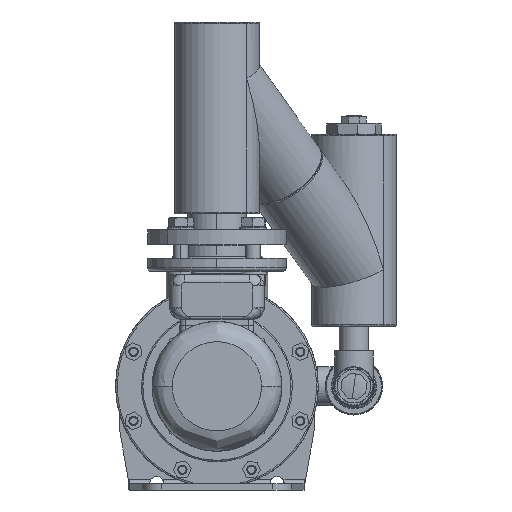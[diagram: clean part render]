
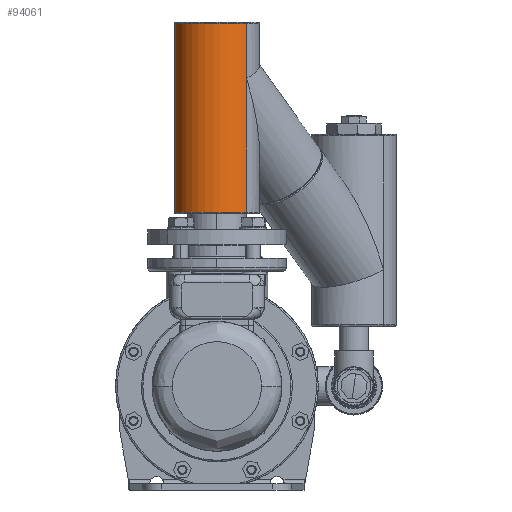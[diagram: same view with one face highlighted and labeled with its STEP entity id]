
A CAD part, front view. The second image highlights one B-rep face of the part: STEP entity #94061.
In plain terms, the highlighted cylindrical face has radius 46 mm (diameter 92 mm), a partial arc.
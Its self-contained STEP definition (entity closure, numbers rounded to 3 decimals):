
#53833 = CARTESIAN_POINT ( 'NONE',  ( -186.707, -230.437, 212.75 ) ) ;
#53834 = DIRECTION ( 'NONE',  ( 0.697, -0.717, 0. ) ) ;
#53835 = DIRECTION ( 'NONE',  ( 0., 0., 1. ) ) ;
#53836 = CARTESIAN_POINT ( 'NONE',  ( -154.632, -263.409, 212.75 ) ) ;
#53840 = CIRCLE ( 'NONE', #53846, 46. ) ;
#53846 = AXIS2_PLACEMENT_3D ( 'NONE', #53836, #53835, #53834 ) ;
#53886 = CARTESIAN_POINT ( 'NONE',  ( -122.557, -296.382, 417.2 ) ) ;
#53889 = CIRCLE ( 'NONE', #53922, 46. ) ;
#53891 = CARTESIAN_POINT ( 'NONE',  ( -122.557, -296.382, 212.75 ) ) ;
#53897 = CARTESIAN_POINT ( 'NONE',  ( -186.707, -230.437, 417.2 ) ) ;
#53919 = DIRECTION ( 'NONE',  ( 0.697, -0.717, 0. ) ) ;
#53920 = DIRECTION ( 'NONE',  ( 0., 0., -1. ) ) ;
#53921 = CARTESIAN_POINT ( 'NONE',  ( -154.632, -263.409, 417.2 ) ) ;
#53922 = AXIS2_PLACEMENT_3D ( 'NONE', #53921, #53920, #53919 ) ;
#54802 = CARTESIAN_POINT ( 'NONE',  ( -186.707, -230.437, 314.975 ) ) ;
#54803 = LINE ( 'NONE', #54802, #54900 ) ;
#54889 = DIRECTION ( 'NONE',  ( 0., 0., 1. ) ) ;
#54890 = VECTOR ( 'NONE', #54889, 1000. ) ;
#54892 = CARTESIAN_POINT ( 'NONE',  ( -122.557, -296.382, 314.975 ) ) ;
#54896 = LINE ( 'NONE', #54892, #54890 ) ;
#54899 = DIRECTION ( 'NONE',  ( 0., 0., 1. ) ) ;
#54900 = VECTOR ( 'NONE', #54899, 1000. ) ;
#55188 = DIRECTION ( 'NONE',  ( 0., 0., 1. ) ) ;
#55189 = VECTOR ( 'NONE', #55188, 1000. ) ;
#55192 = CARTESIAN_POINT ( 'NONE',  ( -186.707, -230.437, 357.475 ) ) ;
#55212 = CARTESIAN_POINT ( 'NONE',  ( -186.707, -230.437, 314.975 ) ) ;
#55213 = LINE ( 'NONE', #55212, #55189 ) ;
#55298 = CARTESIAN_POINT ( 'NONE',  ( -122.557, -296.382, 357.475 ) ) ;
#55305 = LINE ( 'NONE', #55413, #55412 ) ;
#55411 = DIRECTION ( 'NONE',  ( 0., 0., 1. ) ) ;
#55412 = VECTOR ( 'NONE', #55411, 1000. ) ;
#55413 = CARTESIAN_POINT ( 'NONE',  ( -122.557, -296.382, 314.975 ) ) ;
#56339 = DIRECTION ( 'NONE',  ( 0., 0., 1. ) ) ;
#56340 = CARTESIAN_POINT ( 'NONE',  ( -154.632, -263.409, 314.975 ) ) ;
#56343 = AXIS2_PLACEMENT_3D ( 'NONE', #56340, #56339, #56402 ) ;
#56399 = CYLINDRICAL_SURFACE ( 'NONE', #56343, 46. ) ;
#56402 = DIRECTION ( 'NONE',  ( 0.697, -0.717, 0. ) ) ;
#56403 = FACE_OUTER_BOUND ( 'NONE', #94062, .T. ) ;
#93522 = EDGE_CURVE ( 'NONE', #93523, #93531, #53840, .T. ) ;
#93523 = VERTEX_POINT ( 'NONE', #53833 ) ;
#93531 = VERTEX_POINT ( 'NONE', #53891 ) ;
#93547 = VERTEX_POINT ( 'NONE', #53886 ) ;
#93549 = VERTEX_POINT ( 'NONE', #53897 ) ;
#93556 = EDGE_CURVE ( 'NONE', #93547, #93549, #53889, .T. ) ;
#93660 = EDGE_CURVE ( 'NONE', #93725, #93549, #54803, .T. ) ;
#93661 = EDGE_CURVE ( 'NONE', #93531, #93731, #54896, .T. ) ;
#93724 = EDGE_CURVE ( 'NONE', #93523, #93725, #55213, .T. ) ;
#93725 = VERTEX_POINT ( 'NONE', #55192 ) ;
#93731 = VERTEX_POINT ( 'NONE', #55298 ) ;
#93755 = EDGE_CURVE ( 'NONE', #93731, #93547, #55305, .T. ) ;
#94054 = ORIENTED_EDGE ( 'NONE', *, *, #93661, .T. ) ;
#94061 = ADVANCED_FACE ( 'NONE', ( #56403 ), #56399, .T. ) ;
#94062 = EDGE_LOOP ( 'NONE', ( #94126, #94063, #94054, #94115, #94113, #94064 ) ) ;
#94063 = ORIENTED_EDGE ( 'NONE', *, *, #93522, .T. ) ;
#94064 = ORIENTED_EDGE ( 'NONE', *, *, #93660, .F. ) ;
#94113 = ORIENTED_EDGE ( 'NONE', *, *, #93556, .T. ) ;
#94115 = ORIENTED_EDGE ( 'NONE', *, *, #93755, .T. ) ;
#94126 = ORIENTED_EDGE ( 'NONE', *, *, #93724, .F. ) ;
